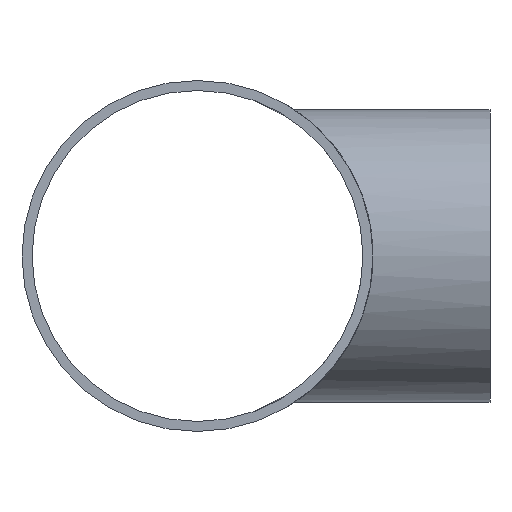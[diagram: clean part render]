
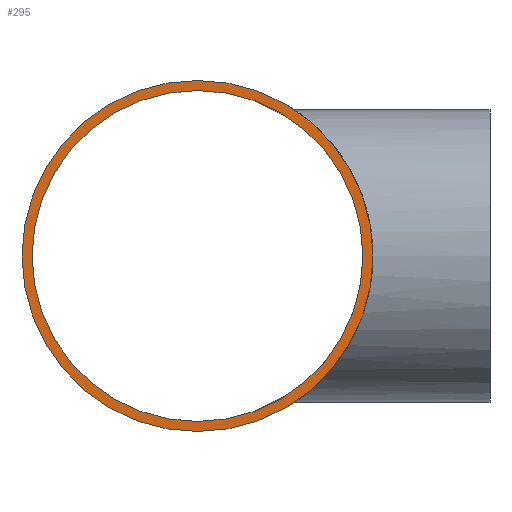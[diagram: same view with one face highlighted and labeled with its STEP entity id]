
A CAD part, left-side view. The second image highlights one B-rep face of the part: STEP entity #295.
In plain terms, the highlighted planar face has unit normal (-1, 0, 0).
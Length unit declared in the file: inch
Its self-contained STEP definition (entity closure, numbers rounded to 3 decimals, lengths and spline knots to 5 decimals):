
#79=FACE_BOUND('',#114,.T.);
#92=FACE_OUTER_BOUND('',#113,.T.);
#113=EDGE_LOOP('',(#242));
#114=EDGE_LOOP('',(#243,#244));
#135=CIRCLE('',#343,11.313);
#136=CIRCLE('',#344,11.313);
#137=CIRCLE('',#346,12.);
#157=VERTEX_POINT('',#642);
#158=VERTEX_POINT('',#644);
#161=VERTEX_POINT('',#766);
#186=EDGE_CURVE('',#158,#157,#135,.T.);
#187=EDGE_CURVE('',#157,#158,#136,.T.);
#190=EDGE_CURVE('',#161,#161,#137,.T.);
#242=ORIENTED_EDGE('',*,*,#190,.T.);
#243=ORIENTED_EDGE('',*,*,#186,.T.);
#244=ORIENTED_EDGE('',*,*,#187,.T.);
#265=PLANE('',#347);
#295=ADVANCED_FACE('',(#92,#79),#265,.F.);
#343=AXIS2_PLACEMENT_3D('',#645,#421,#422);
#344=AXIS2_PLACEMENT_3D('',#646,#423,#424);
#346=AXIS2_PLACEMENT_3D('',#767,#427,#428);
#347=AXIS2_PLACEMENT_3D('',#769,#430,#431);
#421=DIRECTION('center_axis',(1.,0.,0.));
#422=DIRECTION('ref_axis',(0.,-1.,0.));
#423=DIRECTION('center_axis',(1.,0.,0.));
#424=DIRECTION('ref_axis',(0.,-1.,0.));
#427=DIRECTION('center_axis',(-1.,0.,0.));
#428=DIRECTION('ref_axis',(0.,-1.,0.));
#430=DIRECTION('center_axis',(1.,0.,0.));
#431=DIRECTION('ref_axis',(0.,0.,-1.));
#642=CARTESIAN_POINT('',(-20.,11.313,0.));
#644=CARTESIAN_POINT('',(-20.,-11.313,0.));
#645=CARTESIAN_POINT('Origin',(-20.,0.,0.));
#646=CARTESIAN_POINT('Origin',(-20.,0.,0.));
#766=CARTESIAN_POINT('',(-20.,12.,0.));
#767=CARTESIAN_POINT('Origin',(-20.,0.,0.));
#769=CARTESIAN_POINT('Origin',(-20.,0.,0.));
